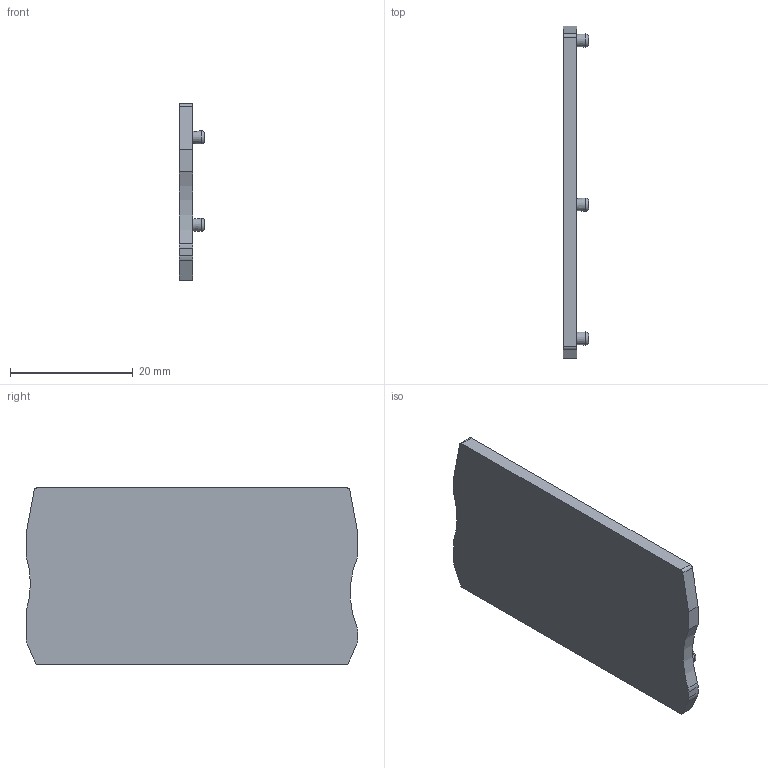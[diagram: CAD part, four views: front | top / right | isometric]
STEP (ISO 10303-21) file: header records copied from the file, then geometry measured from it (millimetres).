
FILE_DESCRIPTION(('STEP AP203'), '1');
FILE_NAME('RIP4 GY_3D', '2022-08-17T12:55:04', ('admin'), (''), 'C3D Converter', 'C3D Toolkit', '');
FILE_SCHEMA(('CONFIG_CONTROL_DESIGN'));
Length unit declared in the file: millimetre
Products named in the file (1): NPP RYK4
Bounding box: 4.1 x 54 x 28.7 mm (x, y, z)
Volume: 1490.5 mm3; surface area: 3817.8 mm2
Topology: 1 solids, 1 shells, 84 faces, 231 edges, 153 vertices
Faces by surface type: plane 42, cylinder 34, cone 3, torus 3, bspline 2
Full cylindrical faces by diameter (mm): 1 x3
Entity records: 3433 total; most frequent: CARTESIAN_POINT 556, DIRECTION 469, ORIENTED_EDGE 442, EDGE_CURVE 221, AXIS2_PLACEMENT_3D 173, VERTEX_POINT 152, LINE 123, VECTOR 123
